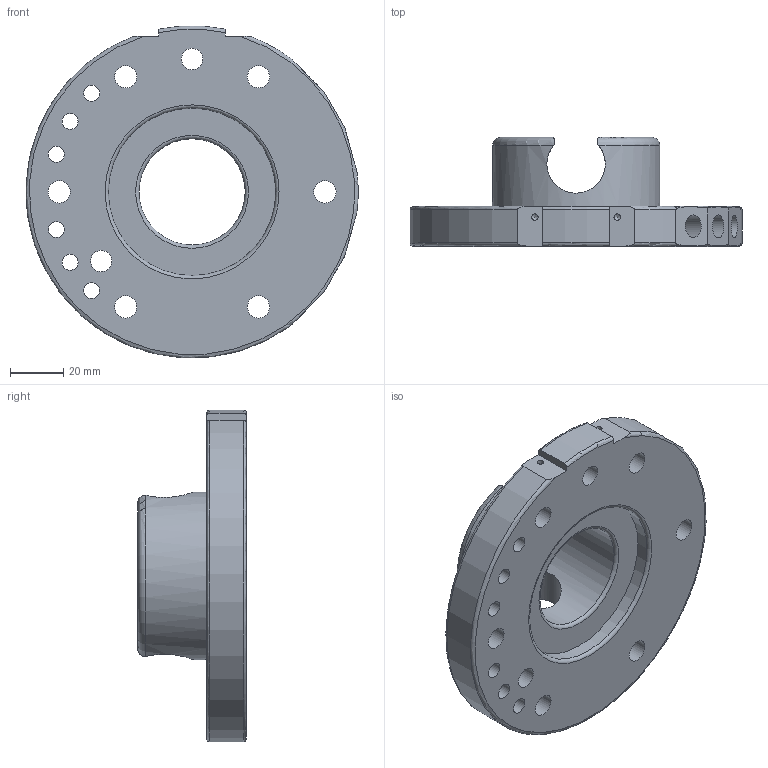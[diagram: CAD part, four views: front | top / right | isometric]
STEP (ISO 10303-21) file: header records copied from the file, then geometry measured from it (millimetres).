
FILE_DESCRIPTION(/* description */ (''),/* implementation_level */ '2;1');
FILE_NAME(/* name */ 'T:\Engineering\Homepage\Homepage 2020\4 3D Step-Daten - Homepage\4 SHW\G-SHW125-2UEP.stp',/* time_stamp */ '2023-06-30T11:07:37+02:00',/* author */ ('ysplieth'),/* organization */ (''),/* preprocessor_version */ 'ST-DEVELOPER v17',/* originating_system */ 'Autodesk Inventor 2018',/* authorisation */ '');
FILE_SCHEMA (('AUTOMOTIVE_DESIGN { 1 0 10303 214 3 1 1 }'));
Length unit declared in the file: millimetre
Products named in the file (1): Bauteil12
Bounding box: 124.94 x 41 x 124.81 mm (x, y, z)
Volume: 168777.1 mm3; surface area: 45112 mm2
Topology: 1 solids, 1 shells, 90 faces, 289 edges, 208 vertices
Faces by surface type: cylinder 43, plane 29, torus 10, cone 8
Full cylindrical faces by diameter (mm): 2.459 x2, 6 x12, 8 x2, 8.376 x6, 8.566 x6, 15 x6, 40 x1, 63 x2
Entity records: 4189 total; most frequent: CARTESIAN_POINT 1378, ORIENTED_EDGE 562, DIRECTION 549, EDGE_CURVE 281, AXIS2_PLACEMENT_3D 233, VERTEX_POINT 208, EDGE_LOOP 147, CIRCLE 142
